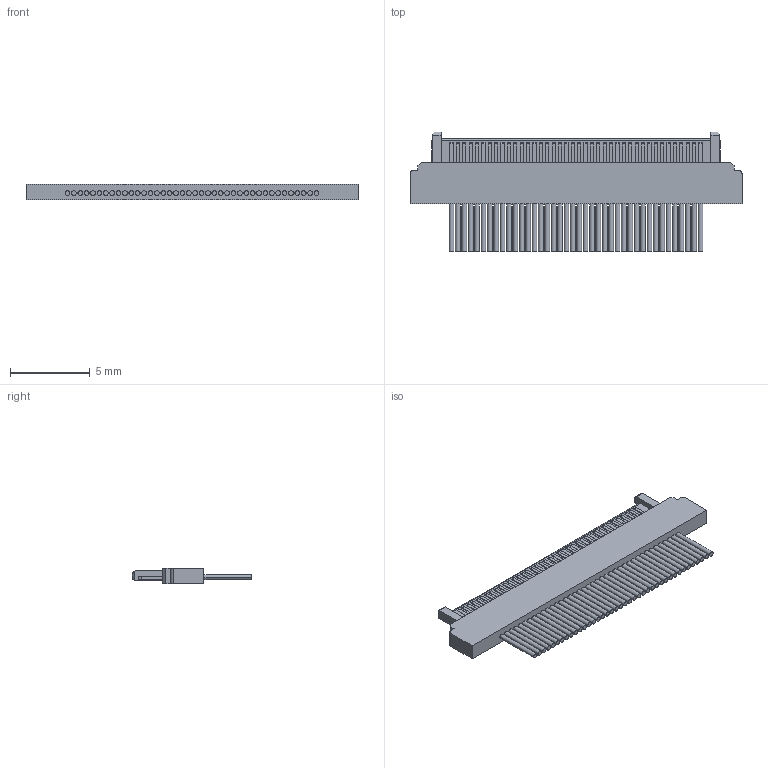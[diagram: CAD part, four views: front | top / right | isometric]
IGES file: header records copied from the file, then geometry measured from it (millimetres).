
Start section: Elysium IGES Interface
Global section: file name: C:\Users\1088\Desktop\USL20-xxS\USL20-40S_IG.igs; native system: Creo Elements/Direct Modeling 19.0F  14-Feb-2017; preprocessor: Creo Element/Direct IGES_3D V2.2; author: Unknown; organization: Unknown; date: 20170807.102002; units: millimetre
Bounding box: 20.8 x 7.5 x 1 mm (x, y, z)
Volume: 71.3 mm3; surface area: 328 mm2
Topology: 1 solids, 1 shells, 321 faces, 834 edges, 556 vertices
Faces by surface type: bspline 321
